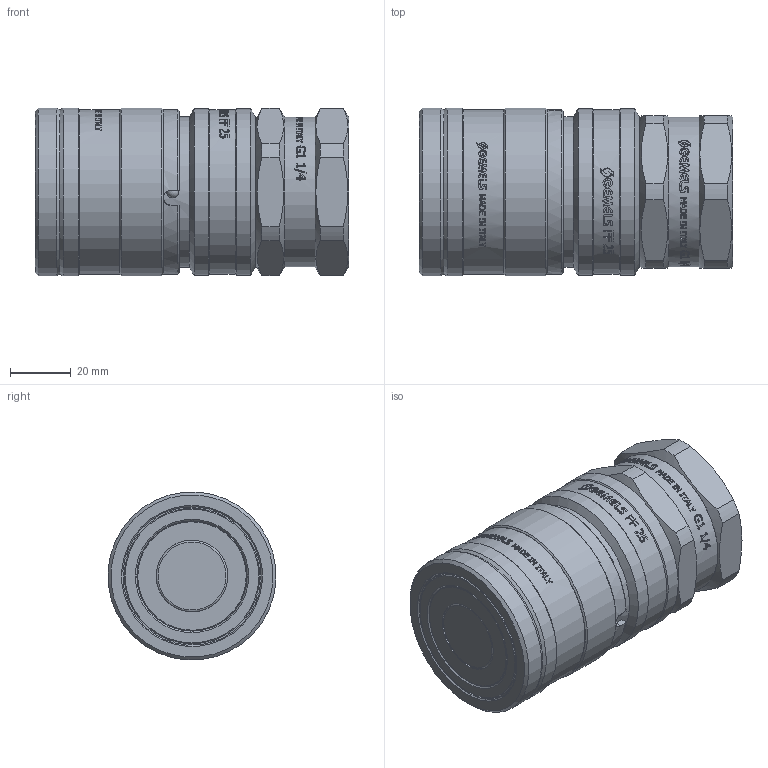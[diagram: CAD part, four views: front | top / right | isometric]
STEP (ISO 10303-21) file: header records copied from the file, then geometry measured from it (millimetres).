
FILE_DESCRIPTION(/* description */ (''),/* implementation_level */ '2;1');
FILE_NAME(/* name */ 'NC06G060000.stp',/* time_stamp */ '2026-03-18T09:43:18+01:00',/* author */ ('nicholas.facchinetti'),/* organization */ (''),/* preprocessor_version */ 'ST-DEVELOPER v20',/* originating_system */ 'Autodesk Inventor 2024',/* authorisation */ '');
FILE_SCHEMA (('CONFIG_CONTROL_DESIGN'));
Products named in the file (1): Parte4
Bounding box: 102.76 x 55.05 x 55.05 mm (x, y, z)
Volume: 189932.7 mm3; surface area: 43346.8 mm2
Topology: 2 solids, 5 shells, 1678 faces, 4730 edges, 3149 vertices
Faces by surface type: bspline 1046, plane 448, cylinder 129, cone 30, sphere 16, torus 9
Full cylindrical faces by diameter (mm): 3.9 x4, 23.55 x1, 23.6 x1, 30 x1, 36 x1, 36.2 x1, 37.5 x1, 38.952 x2, 39 x1, 40 x1, 44.5 x1, 45.4 x1, 46.24 x4, 46.3 x1, 49 x1, 49.2 x1, 49.5 x2, 49.7 x1, 54 x2, 54.7 x2, 55.2 x3
Entity records: 72583 total; most frequent: CARTESIAN_POINT 34331, ORIENTED_EDGE 9460, EDGE_CURVE 4730, DIRECTION 4378, VERTEX_POINT 3148, B_SPLINE_CURVE_WITH_KNOTS 2218, LINE 1856, VECTOR 1856
